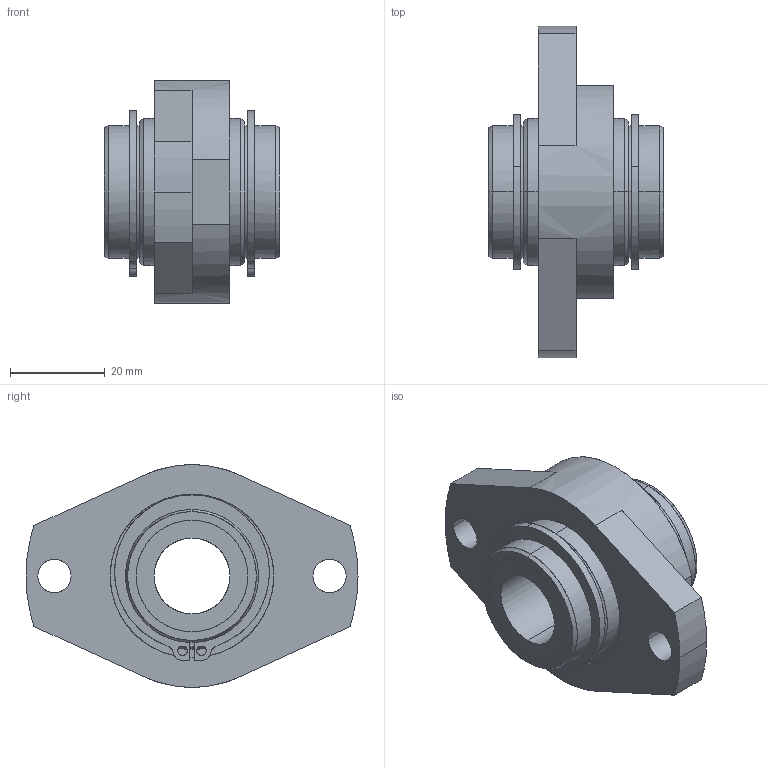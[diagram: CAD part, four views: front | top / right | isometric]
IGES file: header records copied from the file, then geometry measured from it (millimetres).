
Global section: file name: No Iges File Name specified; native system: AutoDesk Inventor R10; preprocessor: AutoDesk Inventor Iges Exporter R10; author: No Author specified; organization: No Organization specified; date: 20101214.161331; units: millimetre
Bounding box: 37 x 70 x 47 mm (x, y, z)
Surface area: 13405.2 mm2 (no closed solid volume)
Topology: 0 solids, 0 shells, 104 faces, 708 edges, 704 vertices
Faces by surface type: bspline 104
